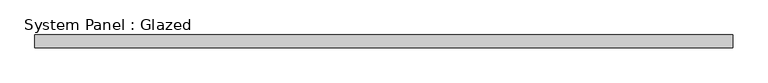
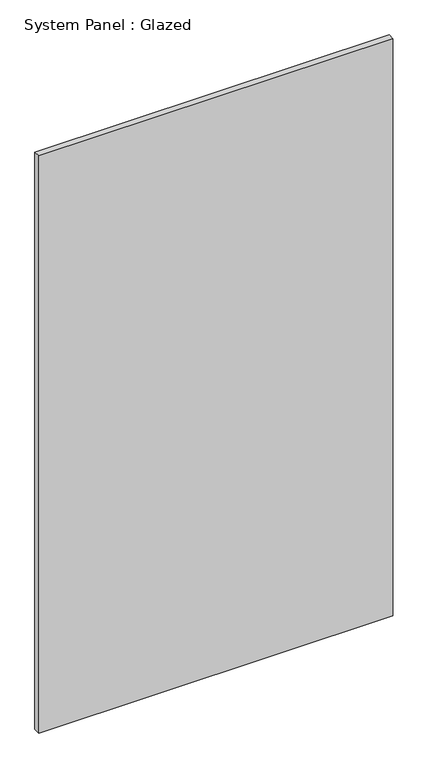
"""IFC4 building model written with IfcOpenShell, lengths in millimetres: plate geometry, System Panel : Glazed."""

from ifc_helpers import new_model, si_unit, origin, origin_with_axes, place, context, project, spatial, polyline, outline, extrude, source, transform, mapped, element, save


def system_panel_glazed_04d9b068(model_context):
    return source(origin(), model_context, "Body", "SweptSolid", [
        extrude(outline(polyline([(675.0576758, 24.5), (-675.0576758, 24.5), (-675.0576758, 49.5), (675.0576758, 49.5), (675.0576758, 24.5)])), origin_with_axes(), (0.0, 0.0, 1.0), 2325.0),
    ])


if __name__ == "__main__":
    model = new_model("IFC4")
    model_context = context("Model", 3, world=origin())
    ifc_project = project(units=[si_unit("LENGTHUNIT", "METRE", prefix="MILLI")], contexts=[model_context])
    site = spatial("IfcSite", under=ifc_project)
    building = spatial("IfcBuilding", under=site)
    placement = place(None, origin())
    system_panel_glazed_shape = system_panel_glazed_04d9b068(model_context)
    element("IfcPlate", 1, ObjectType="System Panel : Glazed", at=placement, inside=building, context=model_context, shape_type="MappedRepresentation", body=[
        mapped(system_panel_glazed_shape, transform((0.0, 0.0, 0.0), x_axis=(1.0, 0.0, 0.0), y_axis=(0.0, 1.0, 0.0), z_axis=(0.0, 0.0, 1.0))),
    ])
    save(model, "model.ifc")
